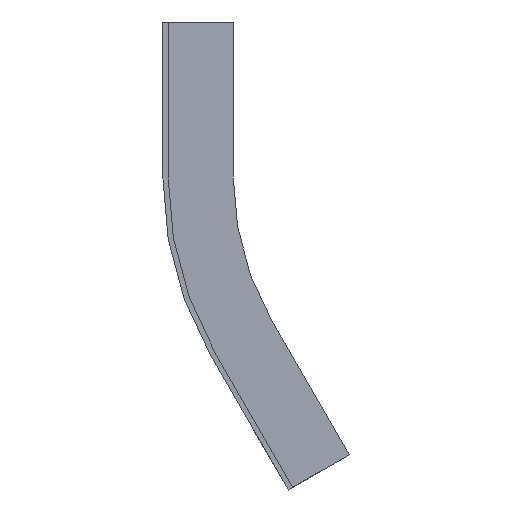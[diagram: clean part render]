
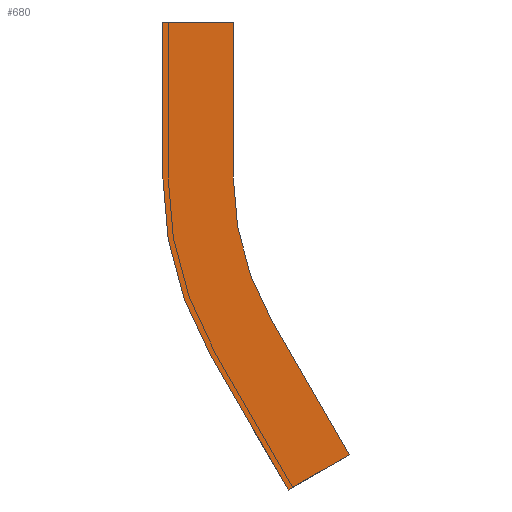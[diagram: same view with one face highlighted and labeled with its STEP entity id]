
A CAD part, left-side view. The second image highlights one B-rep face of the part: STEP entity #680.
In plain terms, the highlighted planar face has unit normal (-1, 0, 0).
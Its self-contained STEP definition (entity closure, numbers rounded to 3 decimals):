
#16 = CARTESIAN_POINT ( 'NONE',  ( -203.5, -101.5, -44. ) ) ;
#21 = LINE ( 'NONE', #280, #406 ) ;
#30 = VERTEX_POINT ( 'NONE', #543 ) ;
#35 = DIRECTION ( 'NONE',  ( 0., 0., 1. ) ) ;
#53 = AXIS2_PLACEMENT_3D ( 'NONE', #661, #140, #71 ) ;
#60 = EDGE_CURVE ( 'NONE', #833, #344, #21, .T. ) ;
#65 = FACE_OUTER_BOUND ( 'NONE', #207, .T. ) ;
#71 = DIRECTION ( 'NONE',  ( 0., 0., 1. ) ) ;
#85 = LINE ( 'NONE', #202, #805 ) ;
#93 = ORIENTED_EDGE ( 'NONE', *, *, #514, .F. ) ;
#98 = EDGE_CURVE ( 'NONE', #717, #260, #383, .T. ) ;
#126 = CARTESIAN_POINT ( 'NONE',  ( -203.5, -13.598, -94.75 ) ) ;
#128 = VERTEX_POINT ( 'NONE', #375 ) ;
#129 = CARTESIAN_POINT ( 'NONE',  ( -203.5, -101.5, -44. ) ) ;
#140 = DIRECTION ( 'NONE',  ( 1., 0., 0. ) ) ;
#156 = DIRECTION ( 'NONE',  ( 0., -1., 0. ) ) ;
#161 = VECTOR ( 'NONE', #399, 1000. ) ;
#170 = LINE ( 'NONE', #762, #677 ) ;
#202 = CARTESIAN_POINT ( 'NONE',  ( -203.5, -20., -44. ) ) ;
#207 = EDGE_LOOP ( 'NONE', ( #93, #584, #828, #823, #681, #625, #381, #231 ) ) ;
#217 = LINE ( 'NONE', #672, #161 ) ;
#224 = CARTESIAN_POINT ( 'NONE',  ( -203.5, -20., 0. ) ) ;
#231 = ORIENTED_EDGE ( 'NONE', *, *, #465, .F. ) ;
#260 = VERTEX_POINT ( 'NONE', #126 ) ;
#274 = DIRECTION ( 'NONE',  ( 0., 0., -1. ) ) ;
#280 = CARTESIAN_POINT ( 'NONE',  ( -203.5, -52.919, -122.855 ) ) ;
#289 = VERTEX_POINT ( 'NONE', #371 ) ;
#314 = DIRECTION ( 'NONE',  ( 0., 0., 1. ) ) ;
#344 = VERTEX_POINT ( 'NONE', #609 ) ;
#370 = EDGE_CURVE ( 'NONE', #344, #717, #217, .T. ) ;
#371 = CARTESIAN_POINT ( 'NONE',  ( -203.5, -20., -44. ) ) ;
#374 = PLANE ( 'NONE',  #483 ) ;
#375 = CARTESIAN_POINT ( 'NONE',  ( -203.5, 0., -44. ) ) ;
#381 = ORIENTED_EDGE ( 'NONE', *, *, #408, .F. ) ;
#383 = LINE ( 'NONE', #434, #448 ) ;
#399 = DIRECTION ( 'NONE',  ( 0., 0.866, -0.5 ) ) ;
#406 = VECTOR ( 'NONE', #546, 1000. ) ;
#408 = EDGE_CURVE ( 'NONE', #289, #833, #593, .T. ) ;
#434 = CARTESIAN_POINT ( 'NONE',  ( -203.5, -13.598, -94.75 ) ) ;
#448 = VECTOR ( 'NONE', #773, 1000. ) ;
#454 = DIRECTION ( 'NONE',  ( -1., 0., 0. ) ) ;
#465 = EDGE_CURVE ( 'NONE', #30, #289, #85, .T. ) ;
#483 = AXIS2_PLACEMENT_3D ( 'NONE', #129, #454, #314 ) ;
#486 = EDGE_CURVE ( 'NONE', #260, #128, #493, .T. ) ;
#493 = CIRCLE ( 'NONE', #53, 101.5 ) ;
#514 = EDGE_CURVE ( 'NONE', #547, #30, #538, .T. ) ;
#535 = DIRECTION ( 'NONE',  ( 0., 0., -1. ) ) ;
#538 = LINE ( 'NONE', #224, #604 ) ;
#543 = CARTESIAN_POINT ( 'NONE',  ( -203.5, -20., 0. ) ) ;
#546 = DIRECTION ( 'NONE',  ( 0., -0.5, -0.866 ) ) ;
#547 = VERTEX_POINT ( 'NONE', #693 ) ;
#584 = ORIENTED_EDGE ( 'NONE', *, *, #588, .F. ) ;
#588 = EDGE_CURVE ( 'NONE', #128, #547, #170, .T. ) ;
#593 = CIRCLE ( 'NONE', #776, 81.5 ) ;
#595 = DIRECTION ( 'NONE',  ( -1., 0., 0. ) ) ;
#604 = VECTOR ( 'NONE', #156, 1000. ) ;
#609 = CARTESIAN_POINT ( 'NONE',  ( -203.5, -52.919, -122.855 ) ) ;
#625 = ORIENTED_EDGE ( 'NONE', *, *, #60, .F. ) ;
#661 = CARTESIAN_POINT ( 'NONE',  ( -203.5, -101.5, -44. ) ) ;
#672 = CARTESIAN_POINT ( 'NONE',  ( -203.5, -35.598, -132.855 ) ) ;
#677 = VECTOR ( 'NONE', #35, 1000. ) ;
#680 = ADVANCED_FACE ( 'NONE', ( #65 ), #374, .T. ) ;
#681 = ORIENTED_EDGE ( 'NONE', *, *, #370, .F. ) ;
#693 = CARTESIAN_POINT ( 'NONE',  ( -203.5, 0., 0. ) ) ;
#717 = VERTEX_POINT ( 'NONE', #781 ) ;
#762 = CARTESIAN_POINT ( 'NONE',  ( -203.5, 0., 0. ) ) ;
#773 = DIRECTION ( 'NONE',  ( 0., 0.5, 0.866 ) ) ;
#776 = AXIS2_PLACEMENT_3D ( 'NONE', #16, #595, #274 ) ;
#781 = CARTESIAN_POINT ( 'NONE',  ( -203.5, -35.598, -132.855 ) ) ;
#805 = VECTOR ( 'NONE', #535, 1000. ) ;
#823 = ORIENTED_EDGE ( 'NONE', *, *, #98, .F. ) ;
#828 = ORIENTED_EDGE ( 'NONE', *, *, #486, .F. ) ;
#833 = VERTEX_POINT ( 'NONE', #861 ) ;
#861 = CARTESIAN_POINT ( 'NONE',  ( -203.5, -30.919, -84.75 ) ) ;
